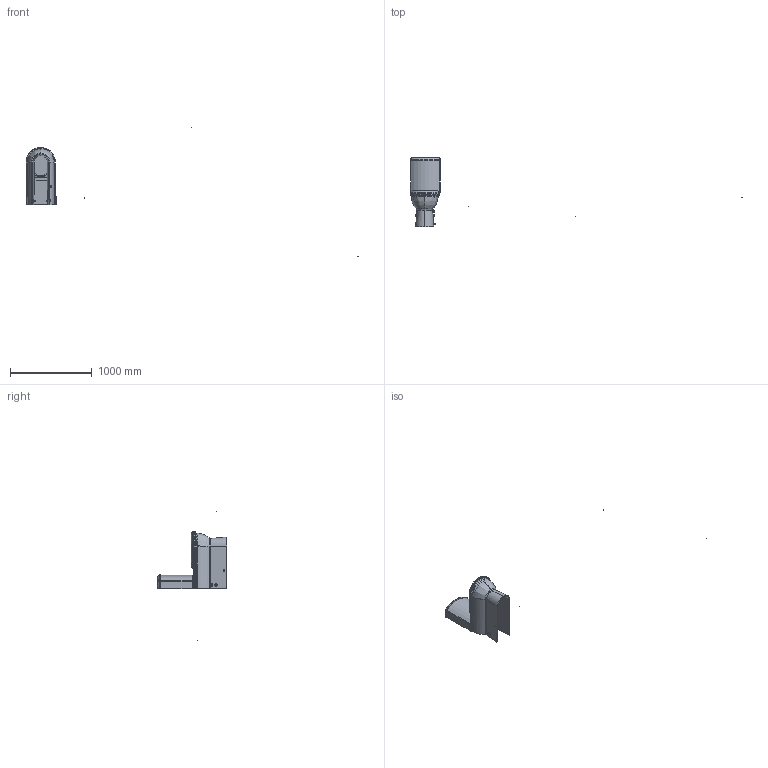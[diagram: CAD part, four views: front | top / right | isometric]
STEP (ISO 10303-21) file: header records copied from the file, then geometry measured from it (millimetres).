
FILE_DESCRIPTION (( 'STEP AP203' ), '1' );
FILE_NAME ('SL310+sl410.STEP', '2022-04-22T11:19:56', ( '' ), ( '' ), 'SwSTEP 2.0', 'SolidWorks 2021', '' );
FILE_SCHEMA (( 'CONFIG_CONTROL_DESIGN' ));
Products named in the file (1): SL310+sl410
Bounding box: 4051.51 x 848.11 x 1567.2 mm (x, y, z)
Volume: 32629771.8 mm3; surface area: 2702293.1 mm2
Topology: 34 solids, 34 shells, 1093 faces, 2692 edges, 1685 vertices
Faces by surface type: cylinder 596, plane 186, bspline 179, torus 92, sphere 40
Entity records: 185125 total; most frequent: CARTESIAN_POINT 161559, ORIENTED_EDGE 5332, DIRECTION 4199, EDGE_CURVE 2666, VERTEX_POINT 1685, AXIS2_PLACEMENT_3D 1642, EDGE_LOOP 1149, FACE_OUTER_BOUND 1093
